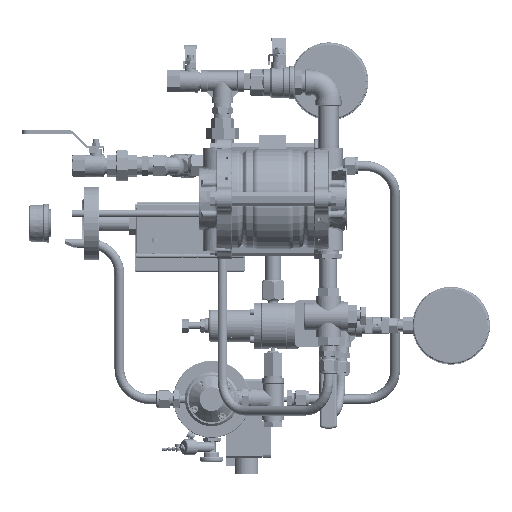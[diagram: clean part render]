
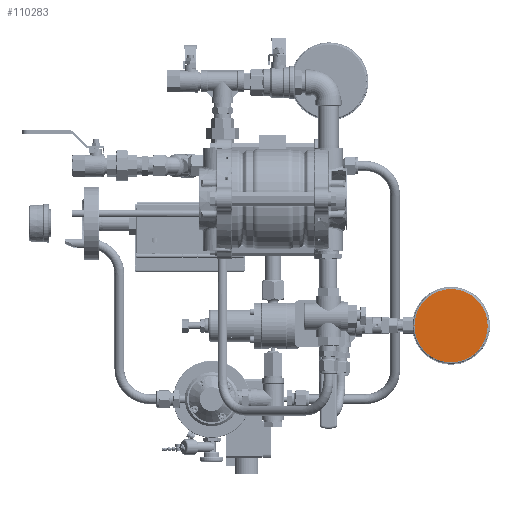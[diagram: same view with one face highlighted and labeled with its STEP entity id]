
A CAD part, top view. The second image highlights one B-rep face of the part: STEP entity #110283.
In plain terms, the highlighted planar face has unit normal (0, 0, 1).
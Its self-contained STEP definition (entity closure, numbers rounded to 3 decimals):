
#9290=PLANE('',#120804);
#15590=FACE_OUTER_BOUND('',#22627,.T.);
#22627=EDGE_LOOP('',(#96037));
#41298=CIRCLE('',#120791,47.5);
#50943=VERTEX_POINT('',#205207);
#66036=EDGE_CURVE('',#50943,#50943,#41298,.T.);
#96037=ORIENTED_EDGE('',*,*,#66036,.F.);
#110283=ADVANCED_FACE('',(#15590),#9290,.F.);
#120791=AXIS2_PLACEMENT_3D('',#205209,#148288,#148289);
#120804=AXIS2_PLACEMENT_3D('',#205566,#148317,#148318);
#148288=DIRECTION('center_axis',(0.,0.,
-1.));
#148289=DIRECTION('ref_axis',(0.,1.,0.));
#148317=DIRECTION('center_axis',(0.,0.,
-1.));
#148318=DIRECTION('ref_axis',(0.,1.,0.));
#205207=CARTESIAN_POINT('',(585.864,-1008.666,-981.484));
#205209=CARTESIAN_POINT('Origin',(585.864,-961.166,-981.484));
#205566=CARTESIAN_POINT('Origin',(585.864,-961.166,-981.484));
